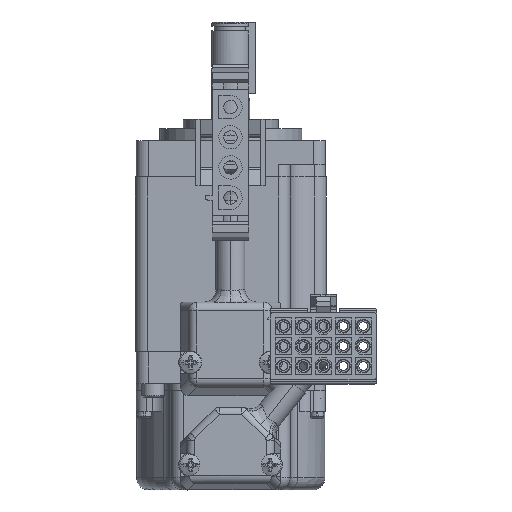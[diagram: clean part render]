
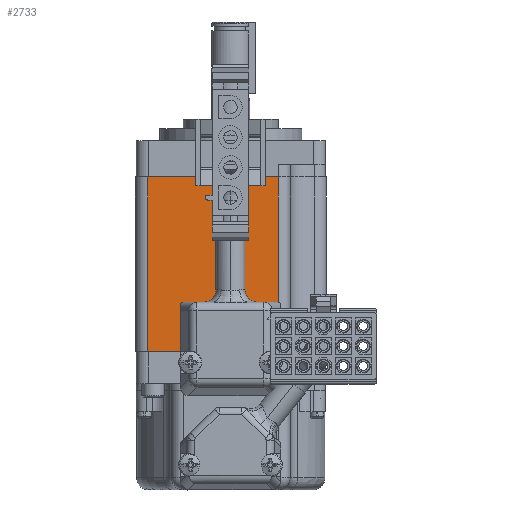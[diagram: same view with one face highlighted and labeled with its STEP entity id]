
A CAD part, front view. The second image highlights one B-rep face of the part: STEP entity #2733.
In plain terms, the highlighted planar face has unit normal (0, -1, 0).
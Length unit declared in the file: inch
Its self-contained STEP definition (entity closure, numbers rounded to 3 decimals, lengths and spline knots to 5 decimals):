
#298=DIRECTION('',(-1.,0.,0.));
#299=VECTOR('',#298,1.08291);
#300=CARTESIAN_POINT('',(0.39291,-0.79,-0.3));
#301=LINE('',#300,#299);
#415=DIRECTION('',(1.,0.,0.));
#416=VECTOR('',#415,1.08291);
#417=CARTESIAN_POINT('',(-0.69,-0.79,-1.747));
#418=LINE('',#417,#416);
#459=DIRECTION('',(0.,0.,1.));
#460=VECTOR('',#459,1.447);
#461=CARTESIAN_POINT('',(0.39291,-0.79,-1.747));
#462=LINE('',#461,#460);
#471=DIRECTION('',(0.,0.,-1.));
#472=VECTOR('',#471,1.447);
#473=CARTESIAN_POINT('',(-0.69,-0.79,-0.3));
#474=LINE('',#473,#472);
#1875=CARTESIAN_POINT('',(0.39291,-0.79,-0.3));
#1876=VERTEX_POINT('',#1875);
#1877=CARTESIAN_POINT('',(-0.69,-0.79,-0.3));
#1878=VERTEX_POINT('',#1877);
#2086=CARTESIAN_POINT('',(0.39291,-0.79,-1.747));
#2088=VERTEX_POINT('',#2086);
#2108=CARTESIAN_POINT('',(-0.69,-0.79,-1.747));
#2109=VERTEX_POINT('',#2108);
#2721=CARTESIAN_POINT('',(0.79,-0.79,-0.3));
#2722=DIRECTION('',(0.,-1.,0.));
#2723=DIRECTION('',(-1.,0.,0.));
#2724=AXIS2_PLACEMENT_3D('',#2721,#2722,#2723);
#2725=PLANE('',#2724);
#2726=ORIENTED_EDGE('',*,*,#2713,.F.);
#2727=ORIENTED_EDGE('',*,*,#2676,.F.);
#2729=ORIENTED_EDGE('',*,*,#2728,.F.);
#2730=ORIENTED_EDGE('',*,*,#2614,.F.);
#2731=EDGE_LOOP('',(#2726,#2727,#2729,#2730));
#2732=FACE_OUTER_BOUND('',#2731,.F.);
#2733=ADVANCED_FACE('',(#2732),#2725,.T.);
#2614=EDGE_CURVE('',#1876,#1878,#301,.T.);
#2676=EDGE_CURVE('',#2109,#2088,#418,.T.);
#2713=EDGE_CURVE('',#2088,#1876,#462,.T.);
#2728=EDGE_CURVE('',#1878,#2109,#474,.T.);
